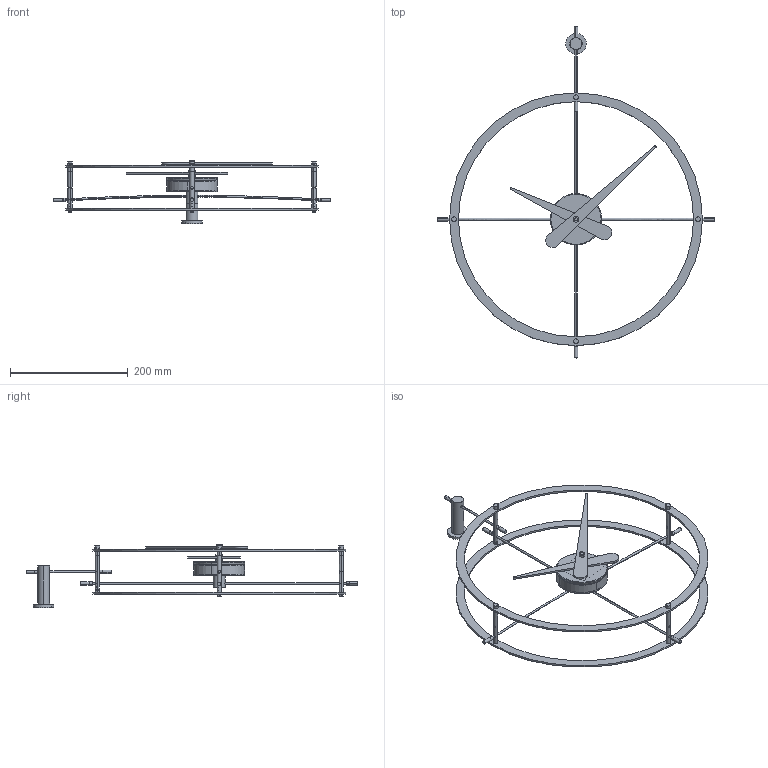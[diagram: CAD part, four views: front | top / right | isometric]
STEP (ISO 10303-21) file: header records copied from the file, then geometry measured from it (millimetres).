
FILE_DESCRIPTION (( 'STEP AP214' ), '1' );
FILE_NAME ('2PUNTOS_n.STEP', '2016-09-14T11:25:09', ( '' ), ( '' ), 'SwSTEP 2.0', 'SolidWorks 2013', '' );
FILE_SCHEMA (( 'AUTOMOTIVE_DESIGN' ));
Length unit declared in the file: millimetre
Products named in the file (30): Embellecedor; Arandela; Tuerca; Embellecedor_2puntos; Aguja_horaria_n_2puntos; Tuerca 1.5; aguja_horaria_n; 2PUNTOS_n; Tornillo; Pieza_caja_inferior; Pieza_caja_superior; Pieza2; Casquillo_2puntos; Arandela_dentada_2puntos; Ecler_2puntos; Caja_acero_inox_2puntos; Esparrago_roscado_embellecedor_2puntos; Soporte_Anclaje_pared_2puntos; aguja_minutera_n; Varilla_2_axioma_2puntos; Anclaje_varilla_inox; Varilla_axioma_2puntos; Pasante; Aro_calabó_2puntos; Anclaje_pared_2puntos; Varilla_anclaje_pared; Esparrago; Arandela_2; Mecanismo; Aguja_minutera_n_2puntos
Assembly tree (50 placements, depth 3):
  2PUNTOS_n
    Anclaje_varilla_inox  x4
    Esparrago_roscado_embellecedor_2puntos  x4
    Embellecedor_2puntos  x4
    Arandela_dentada_2puntos  x4
    Tornillo  x4
    Ecler_2puntos
    Varilla_axioma_2puntos
    Varilla_2_axioma_2puntos
    Casquillo_2puntos  x6
    Varilla_anclaje_pared
    Anclaje_pared_2puntos
    Soporte_Anclaje_pared_2puntos
    Caja_acero_inox_2puntos
      Pieza_caja_inferior
      Pieza_caja_superior
      Mecanismo
      Pieza2
    Aguja_horaria_n_2puntos
      Arandela_2
      Tuerca
      Pasante
      aguja_horaria_n
    Aguja_minutera_n_2puntos
      aguja_minutera_n
      Arandela
      Embellecedor
      Esparrago
      Tuerca 1.5
    Aro_calabó_2puntos  x2
Bounding box: 472 x 564.75 x 107.8 mm (x, y, z)
Volume: 252779.9 mm3; surface area: 203614.5 mm2
Topology: 47 solids, 47 shells, 500 faces, 1030 edges, 656 vertices
Faces by surface type: cylinder 274, plane 176, torus 34, cone 14, bspline 2
Entity records: 10206 total; most frequent: CARTESIAN_POINT 2258, DIRECTION 1594, ORIENTED_EDGE 1232, AXIS2_PLACEMENT_3D 672, EDGE_CURVE 616, VERTEX_POINT 388, EDGE_LOOP 354, CIRCLE 326
